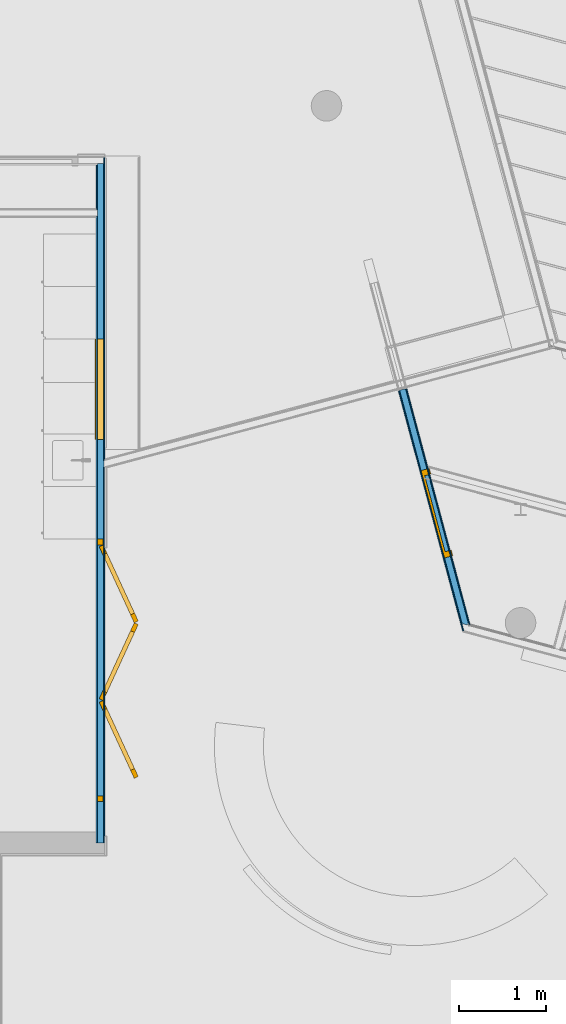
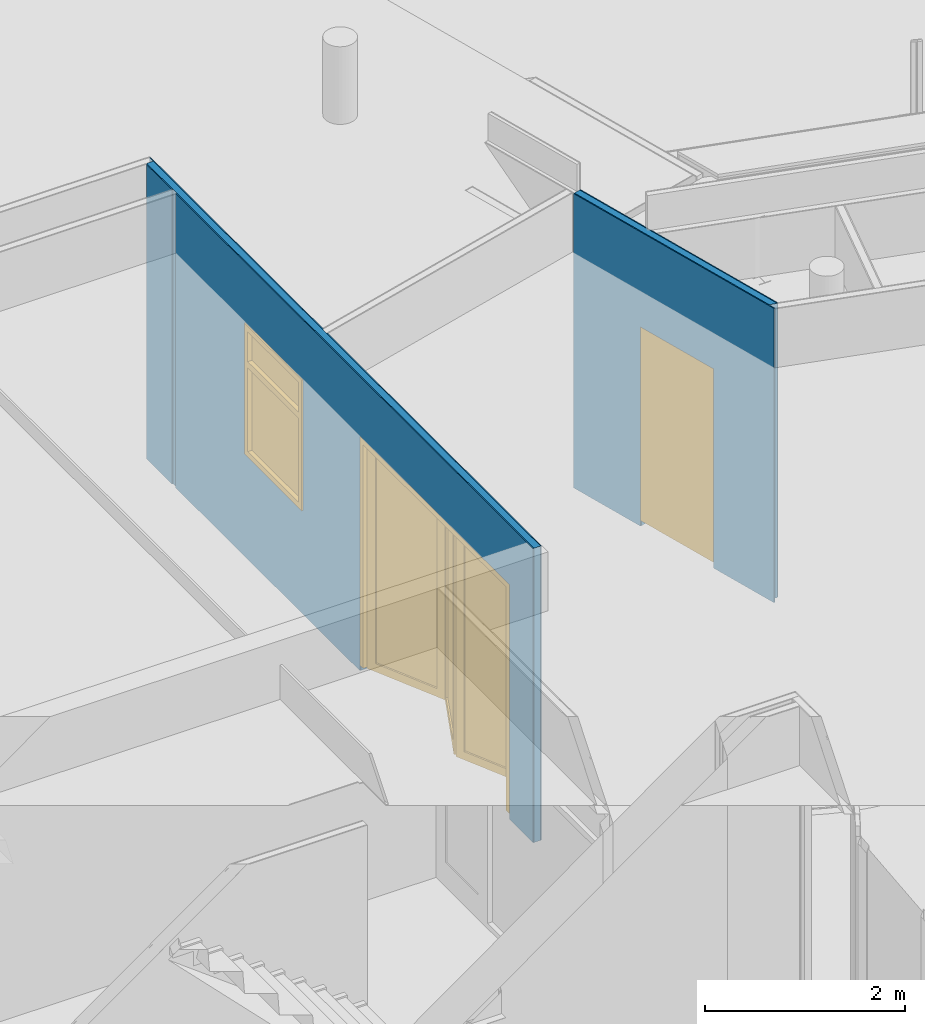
# One storey, part 24 of 167: 6 building element parts, 2 doors, 1 window, 3 openings, 2 elements without a shape of their own.
"""IFC2X3 building model written with IfcOpenShell, lengths in millimetres."""

from ifc_helpers import new_model, entity, si_unit, converted_unit, derived_unit, money_unit, direction, frame, origin_with_axes, place, context, subcontext, project, spatial, open_shell, faceted_brep, surface_model, source, transform, mapped, material, type_object, type_shapes, element, fill, aggregate, save


model = new_model("IFC2X3")

# Units and contexts
model_context = context("Model", 3, precision=0.01, world=origin_with_axes(), true_north=direction((0.0, 1.0)))
plan_context = context("Plan", 3, precision=0.01, world=origin_with_axes(), true_north=direction((0.0, 1.0)))
body_context = subcontext(model_context, "Body", "Model", "MODEL_VIEW")
ifc_project = project(units=[si_unit("LENGTHUNIT", "METRE", prefix="MILLI"), si_unit("AREAUNIT", "SQUARE_METRE"), si_unit("VOLUMEUNIT", "CUBIC_METRE"), converted_unit("PLANEANGLEUNIT", "DEGREE", entity("IfcPlaneAngleMeasure", 0.0174532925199), si_unit("PLANEANGLEUNIT", "RADIAN"), dimensions=[0, 0, 0, 0, 0, 0, 0]), si_unit("SOLIDANGLEUNIT", "STERADIAN"), money_unit("EUR"), converted_unit("TIMEUNIT", "Year", entity("IfcTimeMeasure", 31556926.0), si_unit("TIMEUNIT", "SECOND"), dimensions=[0, 0, 1, 0, 0, 0, 0]), si_unit("MASSUNIT", "GRAM", prefix="KILO"), si_unit("THERMODYNAMICTEMPERATUREUNIT", "DEGREE_CELSIUS"), si_unit("LUMINOUSINTENSITYUNIT", "LUMEN"), si_unit("ENERGYUNIT", "JOULE", prefix="MEGA"), derived_unit("THERMALCONDUCTANCEUNIT", [(si_unit("POWERUNIT", "WATT"), 1), (si_unit("LENGTHUNIT", "METRE"), -1), (si_unit("THERMODYNAMICTEMPERATUREUNIT", "KELVIN"), -1)]), derived_unit("SPECIFICHEATCAPACITYUNIT", [(si_unit("ENERGYUNIT", "JOULE"), 1), (si_unit("MASSUNIT", "GRAM", prefix="KILO"), -1), (si_unit("THERMODYNAMICTEMPERATUREUNIT", "KELVIN"), -1)]), derived_unit("MASSDENSITYUNIT", [(si_unit("MASSUNIT", "GRAM", prefix="KILO"), 1), (si_unit("VOLUMEUNIT", "CUBIC_METRE"), -1)])], contexts=[model_context, plan_context])

# Site, building, storey
site_placement = place(None, origin_with_axes())
site = spatial("IfcSite", under=ifc_project, at=site_placement, Name="Site", CompositionType="ELEMENT")
building_placement = place(site_placement, origin_with_axes())
building = spatial("IfcBuilding", under=site, at=building_placement, Name="Naam gebouw", CompositionType="ELEMENT")
storey_placement = place(building_placement, origin_with_axes())
storey = spatial("IfcBuildingStorey", under=building, at=storey_placement, Name="Begane grond", CompositionType="ELEMENT", Elevation=0.0)

# Window
window_style = type_object("IfcWindowStyle", Name="R1 24", ConstructionType="NOTDEFINED", OperationType="DOUBLE_PANEL_HORIZONTAL", ParameterTakesPrecedence=False, Sizeable=False)
wall_2_placement = place(storey_placement, frame((9600.0, 10800.0, -100.0), z_axis=(0.0, 0.0, 1.0), x_axis=(0.0, 1.0, 0.0)))
opening_2_placement = place(wall_2_placement, frame((5186.0, 0.0, 1300.0), z_axis=(0.0, 0.0, 1.0), x_axis=(1.0, 0.0, 0.0)))
window_placement = place(opening_2_placement, frame((575.0, 0.0, 0.0), z_axis=(0.0, 0.0, 1.0), x_axis=(-1.0, 0.0, 0.0)))
window = element("IfcWindow", 1, at=window_placement, inside=storey, type_object=window_style, Name="31_Raam_Hi-39", ObjectType="WINDOW", OverallHeight=1600.0, OverallWidth=1150.0, context=body_context, shape_type="SurfaceModel", body=[
    faceted_brep([(67.0, -64.0, 1092.4), (67.0, 50.0, 1092.4), (67.0, 50.0, 1167.4), (67.0, -64.0, 1167.4), (67.0, -64.0, 67.0), (67.0, 50.0, 67.0), (0.0, 50.0, 67.0), (0.0, 50.0, 1533.0), (67.0, 50.0, 1533.0), (67.0, -64.0, 1533.0), (0.0, -64.0, 1533.0), (0.0, -64.0, 67.0)], [[[0, 1, 2, 3]], [[4, 5, 1, 0]], [[1, 5, 6, 7, 8, 2]], [[3, 2, 8, 9]], [[0, 3, 9, 10, 11, 4]], [[11, 6, 5, 4]], [[10, 7, 6, 11]], [[9, 8, 7, 10]]]),
    faceted_brep([(1083.0, -64.0, 67.0), (1083.0, 50.0, 67.0), (1150.0, 50.0, 67.0), (1150.0, -64.0, 67.0), (1083.0, -64.0, 1092.4), (1083.0, 50.0, 1092.4), (1083.0, 50.0, 1167.4), (1083.0, 50.0, 1533.0), (1150.0, 50.0, 1533.0), (1150.0, -64.0, 1533.0), (1083.0, -64.0, 1533.0), (1083.0, -64.0, 1167.4)], [[[0, 1, 2, 3]], [[4, 5, 1, 0]], [[1, 5, 6, 7, 8, 2]], [[3, 2, 8, 9]], [[0, 3, 9, 10, 11, 4]], [[11, 6, 5, 4]], [[10, 7, 6, 11]], [[9, 8, 7, 10]]]),
    faceted_brep([(67.0, -64.0, 1167.4), (67.0, 50.0, 1167.4), (67.0, 50.0, 1092.4), (67.0, -64.0, 1092.4), (1083.0, -64.0, 1167.4), (1083.0, 50.0, 1167.4), (1083.0, 50.0, 1092.4), (1083.0, -64.0, 1092.4)], [[[0, 1, 2, 3]], [[4, 5, 1, 0]], [[1, 5, 6, 2]], [[3, 2, 6, 7]], [[0, 3, 7, 4]], [[7, 6, 5, 4]]]),
    faceted_brep([(67.0, -64.0, 67.0), (67.0, 50.0, 67.0), (0.0, 50.0, 67.0), (0.0, -64.0, 67.0), (1083.0, -64.0, 67.0), (1083.0, 50.0, 67.0), (1150.0, 50.0, 67.0), (1150.0, 50.0, 0.0), (0.0, 50.0, 0.0), (0.0, -64.0, 0.0), (1150.0, -64.0, 0.0), (1150.0, -64.0, 67.0)], [[[0, 1, 2, 3]], [[4, 5, 1, 0]], [[1, 5, 6, 7, 8, 2]], [[3, 2, 8, 9]], [[0, 3, 9, 10, 11, 4]], [[11, 6, 5, 4]], [[10, 7, 6, 11]], [[9, 8, 7, 10]]]),
    faceted_brep([(1083.0, -64.0, 1533.0), (1083.0, 50.0, 1533.0), (1150.0, 50.0, 1533.0), (1150.0, -64.0, 1533.0), (67.0, -64.0, 1533.0), (67.0, 50.0, 1533.0), (0.0, 50.0, 1533.0), (0.0, 50.0, 1600.0), (1150.0, 50.0, 1600.0), (1150.0, -64.0, 1600.0), (0.0, -64.0, 1600.0), (0.0, -64.0, 1533.0)], [[[0, 1, 2, 3]], [[4, 5, 1, 0]], [[1, 5, 6, 7, 8, 2]], [[3, 2, 8, 9]], [[0, 3, 9, 10, 11, 4]], [[11, 6, 5, 4]], [[10, 7, 6, 11]], [[9, 8, 7, 10]]]),
    surface_model("IfcShellBasedSurfaceModel", [(67.0, -14.0, 1167.4), (1083.0, -14.0, 1167.4), (1083.0, -14.0, 1533.0), (67.0, -14.0, 1533.0)], [open_shell([[[0, 1, 2, 3]]])]),
    surface_model("IfcShellBasedSurfaceModel", [(67.0, 6.0, 1167.4), (67.0, 6.0, 1533.0), (1083.0, 6.0, 1533.0), (1083.0, 6.0, 1167.4)], [open_shell([[[0, 1, 2, 3]]])]),
    surface_model("IfcShellBasedSurfaceModel", [(67.0, -14.0, 67.0), (1083.0, -14.0, 67.0), (1083.0, -14.0, 1092.4), (67.0, -14.0, 1092.4)], [open_shell([[[0, 1, 2, 3]]])]),
    surface_model("IfcShellBasedSurfaceModel", [(67.0, 6.0, 67.0), (67.0, 6.0, 1092.4), (1083.0, 6.0, 1092.4), (1083.0, 6.0, 67.0)], [open_shell([[[0, 1, 2, 3]]])]),
])

# Door
door_style_1 = type_object("IfcDoorStyle", Name="D1 24", ConstructionType="NOTDEFINED", OperationType="SINGLE_SWING_RIGHT", ParameterTakesPrecedence=False, Sizeable=False)
shared_shape_1 = source(origin_with_axes(), body_context, "Body", "Brep", [
    faceted_brep([(-450.0, -40.0, 0.0), (-450.0, -40.0, 2300.0), (-450.0, -114.0, 2300.0), (-450.0, -114.0, 0.0), (-475.0, -40.0, 2300.0), (-475.0, -40.0, 0.0), (-475.0, 0.0, 2300.0), (-517.0, 0.0, 2300.0), (-517.0, -114.0, 2300.0), (-517.0, -114.0, 0.0), (-517.0, 0.0, 0.0), (-475.0, 0.0, 0.0)], [[[0, 1, 2, 3]], [[4, 1, 0, 5]], [[4, 6, 7, 8, 2, 1]], [[3, 2, 8, 9]], [[5, 0, 3, 9, 10, 11]], [[6, 4, 5, 11]], [[6, 11, 10, 7]], [[10, 9, 8, 7]]]),
    faceted_brep([(475.0, -40.0, 2300.0), (450.0, -40.0, 2300.0), (450.0, -114.0, 2300.0), (517.0, -114.0, 2300.0), (517.0, 0.0, 2300.0), (475.0, 0.0, 2300.0), (475.0, -40.0, 0.0), (450.0, -40.0, 0.0), (450.0, -114.0, 0.0), (517.0, -114.0, 0.0), (517.0, 0.0, 0.0), (475.0, 0.0, 0.0)], [[[0, 1, 2, 3, 4, 5]], [[1, 0, 6, 7]], [[1, 7, 8, 2]], [[3, 2, 8, 9]], [[4, 3, 9, 10]], [[11, 5, 4, 10]], [[0, 5, 11, 6]], [[6, 11, 10, 9, 8, 7]]]),
    faceted_brep([(-475.0, 0.0, 2325.0), (-475.0, 0.0, 2300.0), (-517.0, 0.0, 2300.0), (-517.0, 0.0, 2367.0), (517.0, 0.0, 2367.0), (517.0, 0.0, 2300.0), (475.0, 0.0, 2300.0), (475.0, 0.0, 2325.0), (-475.0, -40.0, 2325.0), (-475.0, -40.0, 2300.0), (-450.0, -40.0, 2300.0), (-450.0, -114.0, 2300.0), (-517.0, -114.0, 2300.0), (-517.0, -114.0, 2367.0), (517.0, -114.0, 2367.0), (517.0, -114.0, 2300.0), (475.0, -40.0, 2300.0), (450.0, -114.0, 2300.0), (450.0, -40.0, 2300.0), (475.0, -40.0, 2325.0)], [[[0, 1, 2, 3, 4, 5, 6, 7]], [[1, 0, 8, 9]], [[9, 10, 11, 12, 2, 1]], [[2, 12, 13, 3]], [[3, 13, 14, 4]], [[4, 14, 15, 5]], [[16, 6, 5, 15, 17, 18]], [[7, 6, 16, 19]], [[0, 7, 19, 8]], [[16, 18, 10, 9, 8, 19]], [[10, 18, 17, 11]], [[17, 15, 14, 13, 12, 11]]]),
    faceted_brep([(475.0, 0.0, 0.0), (475.0, -40.0, 0.0), (-475.0, -40.0, 0.0), (-475.0, 0.0, 0.0), (475.0, 0.0, 2325.0), (475.0, -40.0, 2325.0), (-475.0, -40.0, 2325.0), (-475.0, 0.0, 2325.0)], [[[0, 1, 2, 3]], [[4, 5, 1, 0]], [[1, 5, 6, 2]], [[3, 2, 6, 7]], [[0, 3, 7, 4]], [[7, 6, 5, 4]]]),
])
type_shapes(door_style_1, [shared_shape_1])
wall_1_placement = place(storey_placement, frame((13050.8860643, 15981.2757044, -70.0), z_axis=(0.0, 0.0, 1.0), x_axis=(0.258819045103, -0.965925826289, 0.0)))
opening_1_placement = place(wall_1_placement, frame((1466.61251975, 0.0, 70.0), z_axis=(0.0, 0.0, 1.0), x_axis=(1.0, 0.0, 0.0)))
door_1_placement = place(opening_1_placement, frame((517.0, 0.0, 0.0), z_axis=(0.0, 0.0, 1.0), x_axis=(-1.0, 0.0, 0.0)))
door_1 = element("IfcDoor", 2, at=door_1_placement, inside=storey, type_object=door_style_1, Name="_Deur_Hi-01s", ObjectType="DOOR", OverallHeight=2367.0, OverallWidth=1034.0, context=body_context, shape_type="MappedRepresentation", body=[
    mapped(shared_shape_1, transform((517.0, 50.0, 0.0))),
])

door_style_2 = type_object("IfcDoorStyle", Name="DV1 24", ConstructionType="NOTDEFINED", OperationType="FOLDING_TO_RIGHT", ParameterTakesPrecedence=False, Sizeable=False)
shared_shape_2 = source(origin_with_axes(), body_context, "Body", "SurfaceModel", [
    faceted_brep([(-1500.0, 0.0, 0.0), (-1433.0, 0.0, 0.0), (-1433.0, -80.0, 0.0), (-1500.0, -80.0, 0.0), (-1500.0, 0.0, 2733.0), (-1433.0, 0.0, 2733.0), (-1433.0, -80.0, 2733.0), (-1500.0, -80.0, 2733.0)], [[[0, 1, 2, 3]], [[0, 4, 5, 1]], [[1, 5, 6, 2]], [[3, 2, 6, 7]], [[4, 0, 3, 7]], [[5, 4, 7, 6]]]),
    faceted_brep([(1500.0, 0.0, 0.0), (1500.0, 0.0, 2733.0), (1500.0, -80.0, 2733.0), (1500.0, -80.0, 0.0), (1433.0, 0.0, 0.0), (1433.0, 0.0, 2733.0), (1433.0, -80.0, 2733.0), (1433.0, -80.0, 0.0)], [[[0, 1, 2, 3]], [[0, 4, 5, 1]], [[1, 5, 6, 2]], [[3, 2, 6, 7]], [[4, 0, 3, 7]], [[5, 4, 7, 6]]]),
    faceted_brep([(-1500.0, 0.0, 2800.0), (-1500.0, 0.0, 2733.0), (-1500.0, -80.0, 2733.0), (-1500.0, -80.0, 2800.0), (1500.0, 0.0, 2800.0), (1500.0, 0.0, 2733.0), (1433.0, 0.0, 2733.0), (-1433.0, 0.0, 2733.0), (-1433.0, -80.0, 2733.0), (1433.0, -80.0, 2733.0), (1500.0, -80.0, 2733.0), (1500.0, -80.0, 2800.0)], [[[0, 1, 2, 3]], [[0, 4, 5, 6, 7, 1]], [[1, 7, 8, 2]], [[3, 2, 8, 9, 10, 11]], [[4, 0, 3, 11]], [[5, 4, 11, 10]], [[6, 5, 10, 9]], [[7, 6, 9, 8]]]),
    faceted_brep([(-1433.0, 0.0, 100.0), (-1342.1674691, 41.8264429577, 100.0), (-1321.25424762, -3.58982249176, 100.0), (-1412.08677852, -45.4162654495, 100.0), (-1433.0, 0.0, 2633.0), (-1342.1674691, 41.8264429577, 2633.0), (-1321.25424762, -3.58982249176, 2633.0), (-1412.08677852, -45.4162654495, 2633.0)], [[[0, 1, 2, 3]], [[0, 4, 5, 1]], [[1, 5, 6, 2]], [[3, 2, 6, 7]], [[4, 0, 3, 7]], [[5, 4, 7, 6]]]),
    faceted_brep([(-565.246554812, 399.581951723, 100.0), (-565.246554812, 399.581951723, 2633.0), (-544.333333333, 354.165686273, 2633.0), (-544.333333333, 354.165686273, 100.0), (-656.079085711, 357.755508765, 100.0), (-656.079085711, 357.755508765, 2633.0), (-635.165864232, 312.339243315, 2633.0), (-635.165864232, 312.339243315, 100.0)], [[[0, 1, 2, 3]], [[0, 4, 5, 1]], [[1, 5, 6, 2]], [[3, 2, 6, 7]], [[4, 0, 3, 7]], [[5, 4, 7, 6]]]),
    faceted_brep([(-1433.0, 0.0, 0.0), (-565.246554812, 399.581951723, 0.0), (-544.333333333, 354.165686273, 0.0), (-1412.08677852, -45.4162654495, 0.0), (-1433.0, 0.0, 100.0), (-1342.1674691, 41.8264429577, 100.0), (-656.079085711, 357.755508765, 100.0), (-565.246554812, 399.581951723, 100.0), (-544.333333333, 354.165686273, 100.0), (-635.165864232, 312.339243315, 100.0), (-1321.25424762, -3.58982249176, 100.0), (-1412.08677852, -45.4162654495, 100.0)], [[[0, 1, 2, 3]], [[0, 4, 5, 6, 7, 1]], [[1, 7, 8, 2]], [[3, 2, 8, 9, 10, 11]], [[4, 0, 3, 11]], [[5, 4, 11, 10]], [[6, 5, 10, 9]], [[7, 6, 9, 8]]]),
    faceted_brep([(-1433.0, 0.0, 2733.0), (-1433.0, 0.0, 2633.0), (-1412.08677852, -45.4162654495, 2633.0), (-1412.08677852, -45.4162654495, 2733.0), (-565.246554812, 399.581951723, 2733.0), (-565.246554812, 399.581951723, 2633.0), (-656.079085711, 357.755508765, 2633.0), (-1342.1674691, 41.8264429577, 2633.0), (-1321.25424762, -3.58982249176, 2633.0), (-635.165864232, 312.339243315, 2633.0), (-544.333333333, 354.165686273, 2633.0), (-544.333333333, 354.165686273, 2733.0)], [[[0, 1, 2, 3]], [[0, 4, 5, 6, 7, 1]], [[1, 7, 8, 2]], [[3, 2, 8, 9, 10, 11]], [[4, 0, 3, 11]], [[5, 4, 11, 10]], [[6, 5, 10, 9]], [[7, 6, 9, 8]]]),
    surface_model("IfcShellBasedSurfaceModel", [(-648.132061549, 340.497327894, 100.0), (-1334.22044494, 24.5682620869, 100.0), (-1334.22044494, 24.5682620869, 2633.0), (-648.132061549, 340.497327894, 2633.0)], [open_shell([[[0, 1, 2, 3]]])]),
    surface_model("IfcShellBasedSurfaceModel", [(-643.112888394, 329.597424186, 100.0), (-643.112888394, 329.597424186, 2633.0), (-1329.20127178, 13.668358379, 2633.0), (-1329.20127178, 13.668358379, 100.0)], [open_shell([[[0, 1, 2, 3]]])]),
    faceted_brep([(-523.420111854, 399.581951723, 100.0), (-432.587580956, 357.755508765, 100.0), (-453.500802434, 312.339243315, 100.0), (-544.333333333, 354.165686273, 100.0), (-523.420111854, 399.581951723, 2633.0), (-432.587580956, 357.755508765, 2633.0), (-453.500802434, 312.339243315, 2633.0), (-544.333333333, 354.165686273, 2633.0)], [[[0, 1, 2, 3]], [[0, 4, 5, 1]], [[1, 5, 6, 2]], [[3, 2, 6, 7]], [[4, 0, 3, 7]], [[5, 4, 7, 6]]]),
    faceted_brep([(344.333333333, 0.0, 100.0), (344.333333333, 0.0, 2633.0), (323.420111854, -45.4162654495, 2633.0), (323.420111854, -45.4162654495, 100.0), (253.500802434, 41.8264429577, 100.0), (253.500802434, 41.8264429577, 2633.0), (232.587580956, -3.58982249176, 2633.0), (232.587580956, -3.58982249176, 100.0)], [[[0, 1, 2, 3]], [[0, 4, 5, 1]], [[1, 5, 6, 2]], [[3, 2, 6, 7]], [[4, 0, 3, 7]], [[5, 4, 7, 6]]]),
    faceted_brep([(-523.420111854, 399.581951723, 0.0), (344.333333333, 0.0, 0.0), (323.420111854, -45.4162654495, 0.0), (-544.333333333, 354.165686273, 0.0), (-523.420111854, 399.581951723, 100.0), (-432.587580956, 357.755508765, 100.0), (253.500802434, 41.8264429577, 100.0), (344.333333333, 0.0, 100.0), (323.420111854, -45.4162654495, 100.0), (232.587580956, -3.58982249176, 100.0), (-453.500802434, 312.339243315, 100.0), (-544.333333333, 354.165686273, 100.0)], [[[0, 1, 2, 3]], [[0, 4, 5, 6, 7, 1]], [[1, 7, 8, 2]], [[3, 2, 8, 9, 10, 11]], [[4, 0, 3, 11]], [[5, 4, 11, 10]], [[6, 5, 10, 9]], [[7, 6, 9, 8]]]),
    faceted_brep([(-523.420111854, 399.581951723, 2733.0), (-523.420111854, 399.581951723, 2633.0), (-544.333333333, 354.165686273, 2633.0), (-544.333333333, 354.165686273, 2733.0), (344.333333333, 0.0, 2733.0), (344.333333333, 0.0, 2633.0), (253.500802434, 41.8264429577, 2633.0), (-432.587580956, 357.755508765, 2633.0), (-453.500802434, 312.339243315, 2633.0), (232.587580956, -3.58982249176, 2633.0), (323.420111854, -45.4162654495, 2633.0), (323.420111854, -45.4162654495, 2733.0)], [[[0, 1, 2, 3]], [[0, 4, 5, 6, 7, 1]], [[1, 7, 8, 2]], [[3, 2, 8, 9, 10, 11]], [[4, 0, 3, 11]], [[5, 4, 11, 10]], [[6, 5, 10, 9]], [[7, 6, 9, 8]]]),
    surface_model("IfcShellBasedSurfaceModel", [(245.553778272, 24.5682620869, 100.0), (-440.534605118, 340.497327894, 100.0), (-440.534605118, 340.497327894, 2633.0), (245.553778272, 24.5682620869, 2633.0)], [open_shell([[[0, 1, 2, 3]]])]),
    surface_model("IfcShellBasedSurfaceModel", [(240.534605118, 13.668358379, 100.0), (240.534605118, 13.668358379, 2633.0), (-445.553778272, 329.597424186, 2633.0), (-445.553778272, 329.597424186, 100.0)], [open_shell([[[0, 1, 2, 3]]])]),
    faceted_brep([(344.333333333, 0.0, 100.0), (435.165864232, 41.8264429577, 100.0), (456.079085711, -3.58982249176, 100.0), (365.246554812, -45.4162654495, 100.0), (344.333333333, 0.0, 2633.0), (435.165864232, 41.8264429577, 2633.0), (456.079085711, -3.58982249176, 2633.0), (365.246554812, -45.4162654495, 2633.0)], [[[0, 1, 2, 3]], [[0, 4, 5, 1]], [[1, 5, 6, 2]], [[3, 2, 6, 7]], [[4, 0, 3, 7]], [[5, 4, 7, 6]]]),
    faceted_brep([(1212.08677852, 399.581951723, 100.0), (1212.08677852, 399.581951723, 2633.0), (1233.0, 354.165686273, 2633.0), (1233.0, 354.165686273, 100.0), (1121.25424762, 357.755508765, 100.0), (1121.25424762, 357.755508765, 2633.0), (1142.1674691, 312.339243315, 2633.0), (1142.1674691, 312.339243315, 100.0)], [[[0, 1, 2, 3]], [[0, 4, 5, 1]], [[1, 5, 6, 2]], [[3, 2, 6, 7]], [[4, 0, 3, 7]], [[5, 4, 7, 6]]]),
    faceted_brep([(344.333333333, 0.0, 0.0), (1212.08677852, 399.581951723, 0.0), (1233.0, 354.165686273, 0.0), (365.246554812, -45.4162654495, 0.0), (344.333333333, 0.0, 100.0), (435.165864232, 41.8264429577, 100.0), (1121.25424762, 357.755508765, 100.0), (1212.08677852, 399.581951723, 100.0), (1233.0, 354.165686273, 100.0), (1142.1674691, 312.339243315, 100.0), (456.079085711, -3.58982249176, 100.0), (365.246554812, -45.4162654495, 100.0)], [[[0, 1, 2, 3]], [[0, 4, 5, 6, 7, 1]], [[1, 7, 8, 2]], [[3, 2, 8, 9, 10, 11]], [[4, 0, 3, 11]], [[5, 4, 11, 10]], [[6, 5, 10, 9]], [[7, 6, 9, 8]]]),
    faceted_brep([(344.333333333, 0.0, 2733.0), (344.333333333, 0.0, 2633.0), (365.246554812, -45.4162654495, 2633.0), (365.246554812, -45.4162654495, 2733.0), (1212.08677852, 399.581951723, 2733.0), (1212.08677852, 399.581951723, 2633.0), (1121.25424762, 357.755508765, 2633.0), (435.165864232, 41.8264429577, 2633.0), (456.079085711, -3.58982249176, 2633.0), (1142.1674691, 312.339243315, 2633.0), (1233.0, 354.165686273, 2633.0), (1233.0, 354.165686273, 2733.0)], [[[0, 1, 2, 3]], [[0, 4, 5, 6, 7, 1]], [[1, 7, 8, 2]], [[3, 2, 8, 9, 10, 11]], [[4, 0, 3, 11]], [[5, 4, 11, 10]], [[6, 5, 10, 9]], [[7, 6, 9, 8]]]),
    surface_model("IfcShellBasedSurfaceModel", [(1129.20127178, 340.497327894, 100.0), (443.112888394, 24.5682620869, 100.0), (443.112888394, 24.5682620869, 2633.0), (1129.20127178, 340.497327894, 2633.0)], [open_shell([[[0, 1, 2, 3]]])]),
    surface_model("IfcShellBasedSurfaceModel", [(1134.22044494, 329.597424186, 100.0), (1134.22044494, 329.597424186, 2633.0), (448.132061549, 13.668358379, 2633.0), (448.132061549, 13.668358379, 100.0)], [open_shell([[[0, 1, 2, 3]]])]),
])
type_shapes(door_style_2, [shared_shape_2])
opening_3_placement = place(wall_2_placement, frame((1971.0, 0.0, 100.0), z_axis=(0.0, 0.0, 1.0), x_axis=(1.0, 0.0, 0.0)))
door_2_placement = place(opening_3_placement, frame((1500.0, 0.0, 0.0), z_axis=(0.0, 0.0, 1.0), x_axis=(-1.0, 0.0, 0.0)))
door_2 = element("IfcDoor", 3, at=door_2_placement, inside=storey, type_object=door_style_2, Name="32_Deur_Si-02s", ObjectType="DOOR", OverallHeight=2800.0, OverallWidth=3000.0, context=body_context, shape_type="MappedRepresentation", body=[
    mapped(shared_shape_2, transform((1500.0, 30.0, 0.0))),
])

# Wall, opening
wall_type = type_object("IfcWallType", Name="_TenW_22_Metalstud 100 enkel gipsvezelplaat 100", PredefinedType="NOTDEFINED")
wall_1 = element("IfcWall", 4, at=wall_1_placement, inside=storey, type_object=wall_type, Name="22_Wand_Wand-x")
opening_1 = element("IfcOpeningElement", 5, at=opening_1_placement, cuts=wall_1, Name="_Deur_Hi-01s", context=body_context, shape_type="Brep", body=[
    faceted_brep([(-517.0, 100.0, 2367.0), (-517.0, 100.0, 0.0), (-517.0, -200.0, 0.0), (-517.0, -200.0, 2367.0), (517.0, 100.0, 2367.0), (517.0, 100.0, 0.0), (517.0, -200.0, 0.0), (517.0, -200.0, 2367.0)], [[[0, 1, 2, 3]], [[0, 4, 5, 1]], [[1, 5, 6, 2]], [[3, 2, 6, 7]], [[4, 0, 3, 7]], [[5, 4, 7, 6]]]),
])

fill(opening_1, door_1)

# Building element part
ifc_material_1 = material(Name="Gipsplaat watervast")
building_element_part_1_placement = place(wall_1_placement, origin_with_axes())
building_element_part_1 = element("IfcBuildingElementPart", 6, at=building_element_part_1_placement, material=ifc_material_1, Name="Gipsplaat watervast", context=body_context, shape_type="Brep", body=[
    faceted_brep([(949.612519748, 50.0, 2437.0), (949.612519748, 50.0, 70.0), (949.612519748, 50.0, 0.0), (0.0, 50.0, 0.0), (0.0, 50.0, 2700.0), (945.041462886, 50.0, 2700.0), (945.041462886, 50.0, 2950.0), (0.0, 50.0, 2950.0), (0.0, 50.0, 3600.0), (2795.02016057, 50.0, 3600.0), (2795.02016057, 50.0, 0.0), (1983.61251975, 50.0, 0.0), (1983.61251975, 50.0, 70.0), (1983.61251975, 50.0, 2437.0), (949.612519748, 37.5, 2437.0), (949.612519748, 37.5, 70.0), (949.612519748, 37.5, 0.0), (0.0, 37.5, 0.0), (0.0, 49.9874342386, 2950.0), (0.0, 49.9874342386, 2700.0), (0.0, 37.5, 3600.0), (944.992749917, 49.9150746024, 2700.0), (944.992749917, 49.9150746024, 2950.0), (2787.80328221, 37.5, 3600.0), (2787.80328221, 37.5, 0.0), (1983.61251975, 37.5, 0.0), (1983.61251975, 37.5, 70.0), (1983.61251975, 37.5, 2437.0)], [[[0, 1, 2, 3, 4, 5, 6, 7, 8, 9, 10, 11, 12, 13]], [[1, 0, 14, 15]], [[1, 15, 16, 2]], [[16, 17, 3, 2]], [[8, 7, 18, 19, 4, 3, 17, 20]], [[4, 19, 21, 5]], [[5, 21, 22, 6]], [[6, 22, 18, 7]], [[9, 8, 20, 23]], [[10, 9, 23, 24]], [[11, 10, 24, 25]], [[26, 12, 11, 25]], [[13, 12, 26, 27]], [[0, 13, 27, 14]], [[27, 26, 25, 24, 23, 20, 17, 16, 15, 14]], [[18, 22, 21, 19]]]),
])

ifc_material_2 = material(Name="Isolatie - Steenwol zacht")
building_element_part_2_placement = place(wall_1_placement, origin_with_axes())
building_element_part_2 = element("IfcBuildingElementPart", 7, at=building_element_part_2_placement, material=ifc_material_2, Name="Isolatie - Steenwol zacht", context=body_context, shape_type="Brep", body=[
    faceted_brep([(949.612519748, 37.5, 2437.0), (949.612519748, 37.5, 70.0), (949.612519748, 37.5, 0.0), (0.0, 37.5, 0.0), (0.0, 37.5, 3600.0), (2802.23703894, 37.5, 3600.0), (2802.23703894, 37.5, 0.0), (1983.61251975, 37.5, 0.0), (1983.61251975, 37.5, 70.0), (1983.61251975, 37.5, 2437.0), (949.612519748, -37.5, 2437.0), (949.612519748, -37.5, 70.0), (949.612519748, -37.5, 0.0), (0.0, -37.5, 0.0), (0.0, -37.5, 3600.0), (2758.93576875, -37.5, 3600.0), (2758.93576875, -37.5, 0.0), (1983.61251975, -37.5, 0.0), (1983.61251975, -37.5, 70.0), (1983.61251975, -37.5, 2437.0)], [[[0, 1, 2, 3, 4, 5, 6, 7, 8, 9]], [[1, 0, 10, 11]], [[1, 11, 12, 2]], [[12, 13, 3, 2]], [[3, 13, 14, 4]], [[5, 4, 14, 15]], [[6, 5, 15, 16]], [[7, 6, 16, 17]], [[18, 8, 7, 17]], [[9, 8, 18, 19]], [[0, 9, 19, 10]], [[19, 18, 17, 16, 15, 14, 13, 12, 11, 10]]]),
])

building_element_part_3_placement = place(wall_1_placement, origin_with_axes())
building_element_part_3 = element("IfcBuildingElementPart", 8, at=building_element_part_3_placement, material=ifc_material_1, Name="Gipsplaat watervast", context=body_context, shape_type="Brep", body=[
    faceted_brep([(949.612519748, -37.5, 2437.0), (949.612519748, -37.5, 70.0), (949.612519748, -37.5, 0.0), (0.0, -37.5, 0.0), (0.0, -37.5, 3600.0), (2845.53830913, -37.5, 3600.0), (2845.53830913, -37.5, 0.0), (1983.61251975, -37.5, 0.0), (1983.61251975, -37.5, 70.0), (1983.61251975, -37.5, 2437.0), (949.612519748, -50.0, 2437.0), (949.612519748, -50.0, 70.0), (949.612519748, -50.0, 0.0), (0.0, -50.0, 0.0), (0.0, -50.0, 3600.0), (2838.32143076, -50.0, 3600.0), (2838.32143076, -50.0, 0.0), (1983.61251975, -50.0, 0.0), (1983.61251975, -50.0, 70.0), (1983.61251975, -50.0, 2437.0)], [[[0, 1, 2, 3, 4, 5, 6, 7, 8, 9]], [[1, 0, 10, 11]], [[1, 11, 12, 2]], [[12, 13, 3, 2]], [[3, 13, 14, 4]], [[5, 4, 14, 15]], [[6, 5, 15, 16]], [[7, 6, 16, 17]], [[18, 8, 7, 17]], [[9, 8, 18, 19]], [[0, 9, 19, 10]], [[19, 18, 17, 16, 15, 14, 13, 12, 11, 10]]]),
])

aggregate(wall_1, [building_element_part_1, building_element_part_2, building_element_part_3])

# Wall, opening
wall_2 = element("IfcWall", 9, at=wall_2_placement, inside=storey, type_object=wall_type, Name="22_Wand_Wand-x")
opening_2 = element("IfcOpeningElement", 10, at=opening_2_placement, cuts=wall_2, Name="31_Raam_Hi-39", context=body_context, shape_type="Brep", body=[
    faceted_brep([(-575.0, 100.0, 1600.0), (-575.0, 100.0, 0.0), (-575.0, -200.0, 0.0), (-575.0, -200.0, 1600.0), (575.0, 100.0, 1600.0), (575.0, 100.0, 0.0), (575.0, -200.0, 0.0), (575.0, -200.0, 1600.0)], [[[0, 1, 2, 3]], [[0, 4, 5, 1]], [[1, 5, 6, 2]], [[3, 2, 6, 7]], [[4, 0, 3, 7]], [[5, 4, 7, 6]]]),
])

fill(opening_2, window)

# Opening
opening_3 = element("IfcOpeningElement", 11, at=opening_3_placement, cuts=wall_2, Name="32_Deur_Si-02s", context=body_context, shape_type="Brep", body=[
    faceted_brep([(-1500.0, -100.0, 0.0), (-1500.0, -100.0, 2800.0), (-1500.0, 200.0, 2800.0), (-1500.0, 200.0, 0.0), (1500.0, -100.0, 0.0), (1500.0, -100.0, 2800.0), (1500.0, 200.0, 2800.0), (1500.0, 200.0, 0.0)], [[[0, 1, 2, 3]], [[0, 4, 5, 1]], [[1, 5, 6, 2]], [[3, 2, 6, 7]], [[4, 0, 3, 7]], [[5, 4, 7, 6]]]),
])

fill(opening_3, door_2)

# Building element part
building_element_part_4_placement = place(wall_2_placement, origin_with_axes())
building_element_part_4 = element("IfcBuildingElementPart", 12, at=building_element_part_4_placement, material=ifc_material_1, Name="Gipsplaat watervast", context=body_context, shape_type="Brep", body=[
    faceted_brep([(471.0, 37.5, 100.0), (471.0, 37.5, 2900.0), (3471.0, 37.5, 2900.0), (3471.0, 37.5, 100.0), (3471.0, 37.5, 30.0), (7162.50009033, 37.5, 30.0), (7162.50009033, 37.5, 3629.99999709), (0.0, 37.5, 3629.99999709), (0.0, 37.5, 30.0), (471.0, 37.5, 30.0), (4611.0, 37.5, 2900.0), (5761.0, 37.5, 2900.0), (5761.0, 37.5, 1300.0), (4611.0, 37.5, 1300.0), (471.0, 50.0, 100.0), (471.0, 50.0, 2900.0), (3471.0, 50.0, 2900.0), (3471.0, 50.0, 100.0), (3471.0, 50.0, 30.0), (7162.50009033, 50.0, 30.0), (7162.50009033, 50.0, 3629.99999709), (0.0, 50.0, 3629.99999709), (0.0, 50.0, 30.0), (471.0, 50.0, 30.0), (4611.0, 50.0, 2900.0), (5761.0, 50.0, 2900.0), (5761.0, 50.0, 1300.0), (4611.0, 50.0, 1300.0)], [[[0, 1, 2, 3, 4, 5, 6, 7, 8, 9], [10, 11, 12, 13]], [[1, 0, 14, 15]], [[2, 1, 15, 16]], [[3, 2, 16, 17]], [[3, 17, 18, 4]], [[19, 5, 4, 18]], [[20, 6, 5, 19]], [[21, 7, 6, 20]], [[7, 21, 22, 8]], [[8, 22, 23, 9]], [[14, 0, 9, 23]], [[10, 24, 25, 11]], [[11, 25, 26, 12]], [[12, 26, 27, 13]], [[13, 27, 24, 10]], [[15, 14, 23, 22, 21, 20, 19, 18, 17, 16], [26, 25, 24, 27]]]),
    faceted_brep([(7237.50009033, 37.5, 30.0), (7750.0, 37.5, 30.0), (7750.0, 37.5, 3629.99999709), (7237.50009033, 37.5, 3629.99999709), (7750.0, 50.0, 30.0), (7237.50009033, 50.0, 30.0), (7750.0, 50.0, 3629.99999709), (7237.50009033, 50.0, 3629.99999709)], [[[0, 1, 2, 3]], [[4, 1, 0, 5]], [[1, 4, 6, 2]], [[2, 6, 7, 3]], [[5, 0, 3, 7]], [[4, 5, 7, 6]]]),
])

building_element_part_5_placement = place(wall_2_placement, origin_with_axes())
building_element_part_5 = element("IfcBuildingElementPart", 13, at=building_element_part_5_placement, material=ifc_material_2, Name="Isolatie - Steenwol zacht", context=body_context, shape_type="Brep", body=[
    faceted_brep([(471.0, -37.5, 100.0), (471.0, -37.5, 2900.0), (3471.0, -37.5, 2900.0), (3471.0, -37.5, 100.0), (3471.0, -37.5, 30.0), (7762.5, -37.5, 30.0), (7762.5, -37.5, 3629.99999709), (0.0, -37.5, 3629.99999709), (0.0, -37.5, 30.0), (471.0, -37.5, 30.0), (4611.0, -37.5, 2900.0), (5761.0, -37.5, 2900.0), (5761.0, -37.5, 1300.0), (4611.0, -37.5, 1300.0), (471.0, 37.5, 100.0), (471.0, 37.5, 2900.0), (3471.0, 37.5, 2900.0), (3471.0, 37.5, 100.0), (3471.0, 37.5, 30.0), (7762.5, 37.5, 30.0), (7762.5, 37.5, 3629.99999709), (0.0, 37.5, 3629.99999709), (0.0, 37.5, 30.0), (471.0, 37.5, 30.0), (4611.0, 37.5, 2900.0), (5761.0, 37.5, 2900.0), (5761.0, 37.5, 1300.0), (4611.0, 37.5, 1300.0)], [[[0, 1, 2, 3, 4, 5, 6, 7, 8, 9], [10, 11, 12, 13]], [[1, 0, 14, 15]], [[2, 1, 15, 16]], [[3, 2, 16, 17]], [[3, 17, 18, 4]], [[19, 5, 4, 18]], [[20, 6, 5, 19]], [[21, 7, 6, 20]], [[7, 21, 22, 8]], [[8, 22, 23, 9]], [[14, 0, 9, 23]], [[10, 24, 25, 11]], [[11, 25, 26, 12]], [[12, 26, 27, 13]], [[13, 27, 24, 10]], [[15, 14, 23, 22, 21, 20, 19, 18, 17, 16], [26, 25, 24, 27]]]),
])

building_element_part_6_placement = place(wall_2_placement, origin_with_axes())
building_element_part_6 = element("IfcBuildingElementPart", 14, at=building_element_part_6_placement, material=ifc_material_1, Name="Gipsplaat watervast", context=body_context, shape_type="Brep", body=[
    faceted_brep([(471.0, -50.0, 100.0), (471.0, -50.0, 2900.0), (3471.0, -50.0, 2900.0), (3471.0, -50.0, 100.0), (3471.0, -50.0, 30.0), (4295.7764454, -50.0, 30.0), (4295.7764454, -50.0, 3629.99999709), (0.0, -50.0, 3629.99999709), (0.0, -50.0, 30.0), (471.0, -50.0, 30.0), (471.0, -37.5, 100.0), (471.0, -37.5, 2900.0), (3471.0, -37.5, 2900.0), (3471.0, -37.5, 100.0), (3471.0, -37.5, 30.0), (4292.42708049, -37.5, 30.0), (4292.42708049, -37.5, 3629.99999709), (0.0, -37.5, 3629.99999709), (0.0, -37.5, 30.0), (471.0, -37.5, 30.0)], [[[0, 1, 2, 3, 4, 5, 6, 7, 8, 9]], [[1, 0, 10, 11]], [[2, 1, 11, 12]], [[3, 2, 12, 13]], [[3, 13, 14, 4]], [[14, 15, 5, 4]], [[15, 16, 6, 5]], [[16, 17, 7, 6]], [[8, 7, 17, 18]], [[9, 8, 18, 19]], [[10, 0, 9, 19]], [[11, 10, 19, 18, 17, 16, 15, 14, 13, 12]]]),
    faceted_brep([(4370.07279402, -37.5, 30.0), (4370.07279402, -37.5, 3629.99999709), (7837.5, -37.5, 3629.99999709), (7837.5, -37.5, 30.0), (4611.0, -37.5, 1300.0), (5761.0, -37.5, 1300.0), (5761.0, -37.5, 2900.0), (4611.0, -37.5, 2900.0), (4373.42215893, -50.0, 30.0), (4373.42215893, -50.0, 3629.99999709), (7837.5, -50.0, 3629.99999709), (7837.5, -50.0, 30.0), (4611.0, -50.0, 1300.0), (5761.0, -50.0, 1300.0), (5761.0, -50.0, 2900.0), (4611.0, -50.0, 2900.0)], [[[0, 1, 2, 3], [4, 5, 6, 7]], [[8, 9, 1, 0]], [[2, 1, 9, 10]], [[3, 2, 10, 11]], [[11, 8, 0, 3]], [[12, 13, 5, 4]], [[13, 14, 6, 5]], [[14, 15, 7, 6]], [[15, 12, 4, 7]], [[11, 10, 9, 8], [12, 15, 14, 13]]]),
])

aggregate(wall_2, [building_element_part_4, building_element_part_5, building_element_part_6])

save(model, "model.ifc")
